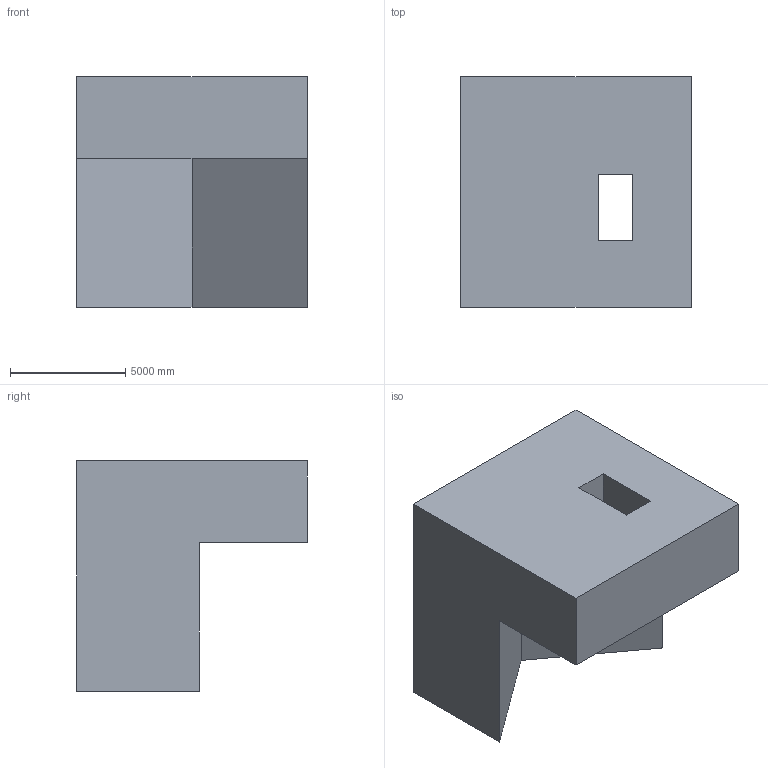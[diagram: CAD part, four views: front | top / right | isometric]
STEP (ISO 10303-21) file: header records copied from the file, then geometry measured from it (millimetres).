
FILE_DESCRIPTION (( 'STEP AP203' ), '1' );
FILE_NAME ('1026.STEP', '2022-08-18T12:28:18', ( 'user' ), ( '' ), 'SwSTEP 2.0', 'SolidWorks 2021', '' );
FILE_SCHEMA (( 'CONFIG_CONTROL_DESIGN' ));
Length unit declared in the file: centimetre
Products named in the file (1): 1026
Bounding box: 10000 x 10000 x 10000 mm (x, y, z)
Volume: 563584764946.2 mm3; surface area: 577640722.8 mm2
Topology: 1 solids, 1 shells, 13 faces, 33 edges, 22 vertices
Faces by surface type: plane 13
Entity records: 468 total; most frequent: CARTESIAN_POINT 69, ORIENTED_EDGE 66, DIRECTION 61, EDGE_CURVE 33, VECTOR 33, LINE 33, VERTEX_POINT 22, EDGE_LOOP 15
